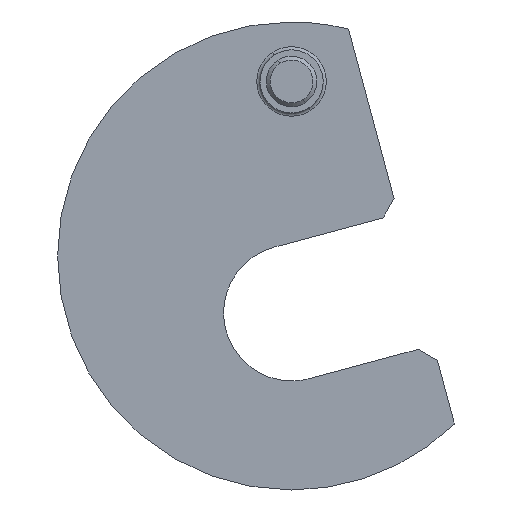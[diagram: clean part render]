
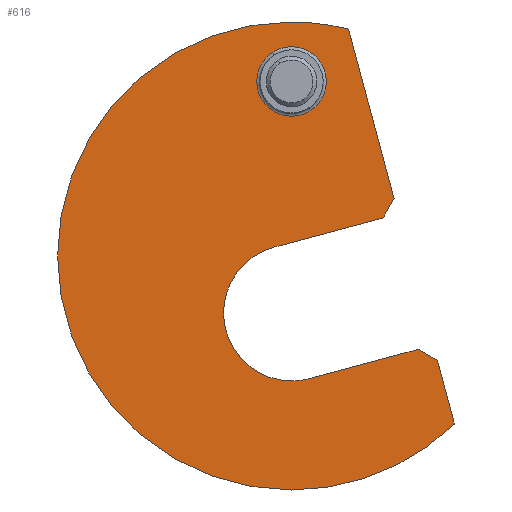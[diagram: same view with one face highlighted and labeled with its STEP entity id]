
A CAD part, front view. The second image highlights one B-rep face of the part: STEP entity #616.
In plain terms, the highlighted planar face has unit normal (0, -1, 0).
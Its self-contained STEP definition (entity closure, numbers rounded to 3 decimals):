
#125 = DIRECTION ( 'NONE',  ( 0., 0., 1. ) ) ;
#126 = DIRECTION ( 'NONE',  ( 0., 1., 0. ) ) ;
#127 = CARTESIAN_POINT ( 'NONE',  ( 0., 0., 0. ) ) ;
#128 = AXIS2_PLACEMENT_3D ( 'NONE', #127, #126, #125 ) ;
#129 = CIRCLE ( 'NONE', #128, 37. ) ;
#598 = DIRECTION ( 'NONE',  ( 0., 0., 1. ) ) ;
#599 = DIRECTION ( 'NONE',  ( 0., 1., 0. ) ) ;
#605 = CARTESIAN_POINT ( 'NONE',  ( 0., 0., 0. ) ) ;
#606 = AXIS2_PLACEMENT_3D ( 'NONE', #605, #599, #598 ) ;
#607 = PLANE ( 'NONE',  #606 ) ;
#609 = FACE_BOUND ( 'NONE', #656, .T. ) ;
#610 = FACE_OUTER_BOUND ( 'NONE', #673, .T. ) ;
#616 = ADVANCED_FACE ( 'NONE', ( #610, #609 ), #607, .F. ) ;
#617 = VERTEX_POINT ( 'NONE', #1426 ) ;
#619 = ORIENTED_EDGE ( 'NONE', *, *, #701, .F. ) ;
#620 = EDGE_CURVE ( 'NONE', #702, #641, #1427, .T. ) ;
#621 = ORIENTED_EDGE ( 'NONE', *, *, #620, .F. ) ;
#622 = ORIENTED_EDGE ( 'NONE', *, *, #710, .F. ) ;
#626 = EDGE_CURVE ( 'NONE', #711, #628, #1004, .T. ) ;
#627 = EDGE_CURVE ( 'NONE', #617, #641, #1000, .T. ) ;
#628 = VERTEX_POINT ( 'NONE', #996 ) ;
#631 = ORIENTED_EDGE ( 'NONE', *, *, #626, .F. ) ;
#632 = VERTEX_POINT ( 'NONE', #991 ) ;
#635 = EDGE_CURVE ( 'NONE', #727, #628, #990, .T. ) ;
#638 = ORIENTED_EDGE ( 'NONE', *, *, #627, .T. ) ;
#639 = ORIENTED_EDGE ( 'NONE', *, *, #646, .F. ) ;
#640 = ORIENTED_EDGE ( 'NONE', *, *, #635, .T. ) ;
#641 = VERTEX_POINT ( 'NONE', #981 ) ;
#646 = EDGE_CURVE ( 'NONE', #617, #632, #979, .T. ) ;
#652 = ORIENTED_EDGE ( 'NONE', *, *, #721, .T. ) ;
#654 = EDGE_CURVE ( 'NONE', #632, #718, #1027, .T. ) ;
#655 = ORIENTED_EDGE ( 'NONE', *, *, #654, .F. ) ;
#656 = EDGE_LOOP ( 'NONE', ( #652, #759 ) ) ;
#670 = ORIENTED_EDGE ( 'NONE', *, *, #794, .F. ) ;
#673 = EDGE_LOOP ( 'NONE', ( #639, #638, #621, #619, #670, #757, #763, #640, #631, #622, #655 ) ) ;
#699 = VERTEX_POINT ( 'NONE', #1081 ) ;
#701 = EDGE_CURVE ( 'NONE', #699, #702, #1080, .T. ) ;
#702 = VERTEX_POINT ( 'NONE', #1075 ) ;
#710 = EDGE_CURVE ( 'NONE', #718, #711, #1122, .T. ) ;
#711 = VERTEX_POINT ( 'NONE', #1117 ) ;
#718 = VERTEX_POINT ( 'NONE', #1102 ) ;
#721 = EDGE_CURVE ( 'NONE', #731, #729, #1159, .T. ) ;
#727 = VERTEX_POINT ( 'NONE', #1150 ) ;
#729 = VERTEX_POINT ( 'NONE', #1149 ) ;
#731 = VERTEX_POINT ( 'NONE', #1148 ) ;
#756 = EDGE_CURVE ( 'NONE', #762, #770, #1189, .T. ) ;
#757 = ORIENTED_EDGE ( 'NONE', *, *, #756, .F. ) ;
#758 = EDGE_CURVE ( 'NONE', #727, #762, #1184, .T. ) ;
#759 = ORIENTED_EDGE ( 'NONE', *, *, #760, .T. ) ;
#760 = EDGE_CURVE ( 'NONE', #729, #731, #1180, .T. ) ;
#762 = VERTEX_POINT ( 'NONE', #1169 ) ;
#763 = ORIENTED_EDGE ( 'NONE', *, *, #758, .F. ) ;
#770 = VERTEX_POINT ( 'NONE', #1219 ) ;
#794 = EDGE_CURVE ( 'NONE', #770, #699, #129, .T. ) ;
#976 = DIRECTION ( 'NONE',  ( -0.966, 0., -0.259 ) ) ;
#977 = VECTOR ( 'NONE', #976, 1000. ) ;
#978 = CARTESIAN_POINT ( 'NONE',  ( -2.782, 0., 1.384 ) ) ;
#979 = LINE ( 'NONE', #978, #977 ) ;
#981 = CARTESIAN_POINT ( 'NONE',  ( 16.207, 0., 9.06 ) ) ;
#987 = DIRECTION ( 'NONE',  ( -0.866, 0., 0.5 ) ) ;
#988 = VECTOR ( 'NONE', #987, 1000. ) ;
#989 = CARTESIAN_POINT ( 'NONE',  ( 23.066, 0., -16.537 ) ) ;
#990 = LINE ( 'NONE', #989, #988 ) ;
#991 = CARTESIAN_POINT ( 'NONE',  ( -2.782, 0., 1.384 ) ) ;
#996 = CARTESIAN_POINT ( 'NONE',  ( 20.004, 0., -14.769 ) ) ;
#997 = DIRECTION ( 'NONE',  ( 0.5, 0., 0.866 ) ) ;
#998 = VECTOR ( 'NONE', #997, 1000. ) ;
#999 = CARTESIAN_POINT ( 'NONE',  ( 14.44, 0., 5.998 ) ) ;
#1000 = LINE ( 'NONE', #999, #998 ) ;
#1001 = DIRECTION ( 'NONE',  ( 0.966, 0., 0.259 ) ) ;
#1002 = VECTOR ( 'NONE', #1001, 1000. ) ;
#1003 = CARTESIAN_POINT ( 'NONE',  ( 2.782, 0., -19.384 ) ) ;
#1004 = LINE ( 'NONE', #1003, #1002 ) ;
#1023 = DIRECTION ( 'NONE',  ( 0., 0., 1. ) ) ;
#1024 = DIRECTION ( 'NONE',  ( 0., -1., 0. ) ) ;
#1025 = CARTESIAN_POINT ( 'NONE',  ( 0., 0., -9. ) ) ;
#1026 = AXIS2_PLACEMENT_3D ( 'NONE', #1025, #1024, #1023 ) ;
#1027 = CIRCLE ( 'NONE', #1026, 10.75 ) ;
#1075 = CARTESIAN_POINT ( 'NONE',  ( 9.02, 0., 35.884 ) ) ;
#1076 = DIRECTION ( 'NONE',  ( 0., 0., 1. ) ) ;
#1077 = DIRECTION ( 'NONE',  ( 0., 1., 0. ) ) ;
#1078 = CARTESIAN_POINT ( 'NONE',  ( 0., 0., 0. ) ) ;
#1079 = AXIS2_PLACEMENT_3D ( 'NONE', #1078, #1077, #1076 ) ;
#1080 = CIRCLE ( 'NONE', #1079, 37. ) ;
#1081 = CARTESIAN_POINT ( 'NONE',  ( 0., 0., 37. ) ) ;
#1101 = CARTESIAN_POINT ( 'NONE',  ( 0., 0., 27.6 ) ) ;
#1102 = CARTESIAN_POINT ( 'NONE',  ( 0., 0., -19.75 ) ) ;
#1117 = CARTESIAN_POINT ( 'NONE',  ( 2.782, 0., -19.384 ) ) ;
#1118 = DIRECTION ( 'NONE',  ( 0., 0., 1. ) ) ;
#1119 = DIRECTION ( 'NONE',  ( 0., -1., 0. ) ) ;
#1120 = CARTESIAN_POINT ( 'NONE',  ( 0., 0., -9. ) ) ;
#1121 = AXIS2_PLACEMENT_3D ( 'NONE', #1120, #1119, #1118 ) ;
#1122 = CIRCLE ( 'NONE', #1121, 10.75 ) ;
#1148 = CARTESIAN_POINT ( 'NONE',  ( 0., 0., 22.1 ) ) ;
#1149 = CARTESIAN_POINT ( 'NONE',  ( 0., 0., 33.1 ) ) ;
#1150 = CARTESIAN_POINT ( 'NONE',  ( 23.066, 0., -16.537 ) ) ;
#1156 = DIRECTION ( 'NONE',  ( 0., 0., 1. ) ) ;
#1157 = DIRECTION ( 'NONE',  ( 0., 1., 0. ) ) ;
#1158 = AXIS2_PLACEMENT_3D ( 'NONE', #1101, #1157, #1156 ) ;
#1159 = CIRCLE ( 'NONE', #1158, 5.5 ) ;
#1169 = CARTESIAN_POINT ( 'NONE',  ( 25.753, 0., -26.566 ) ) ;
#1176 = DIRECTION ( 'NONE',  ( 0., 0., 1. ) ) ;
#1177 = DIRECTION ( 'NONE',  ( 0., 1., 0. ) ) ;
#1178 = CARTESIAN_POINT ( 'NONE',  ( 0., 0., 27.6 ) ) ;
#1179 = AXIS2_PLACEMENT_3D ( 'NONE', #1178, #1177, #1176 ) ;
#1180 = CIRCLE ( 'NONE', #1179, 5.5 ) ;
#1181 = DIRECTION ( 'NONE',  ( 0.259, 0., -0.966 ) ) ;
#1182 = VECTOR ( 'NONE', #1181, 1000. ) ;
#1183 = CARTESIAN_POINT ( 'NONE',  ( 22.419, 0., -14.122 ) ) ;
#1184 = LINE ( 'NONE', #1183, #1182 ) ;
#1185 = DIRECTION ( 'NONE',  ( 0., 0., 1. ) ) ;
#1186 = DIRECTION ( 'NONE',  ( 0., 1., 0. ) ) ;
#1187 = CARTESIAN_POINT ( 'NONE',  ( 0., 0., 0. ) ) ;
#1188 = AXIS2_PLACEMENT_3D ( 'NONE', #1187, #1186, #1185 ) ;
#1189 = CIRCLE ( 'NONE', #1188, 37. ) ;
#1219 = CARTESIAN_POINT ( 'NONE',  ( 0., 0., -37. ) ) ;
#1426 = CARTESIAN_POINT ( 'NONE',  ( 14.44, 0., 5.998 ) ) ;
#1427 = LINE ( 'NONE', #1430, #1429 ) ;
#1428 = DIRECTION ( 'NONE',  ( 0.259, 0., -0.966 ) ) ;
#1429 = VECTOR ( 'NONE', #1428, 1000. ) ;
#1430 = CARTESIAN_POINT ( 'NONE',  ( 9.02, 0., 35.884 ) ) ;
